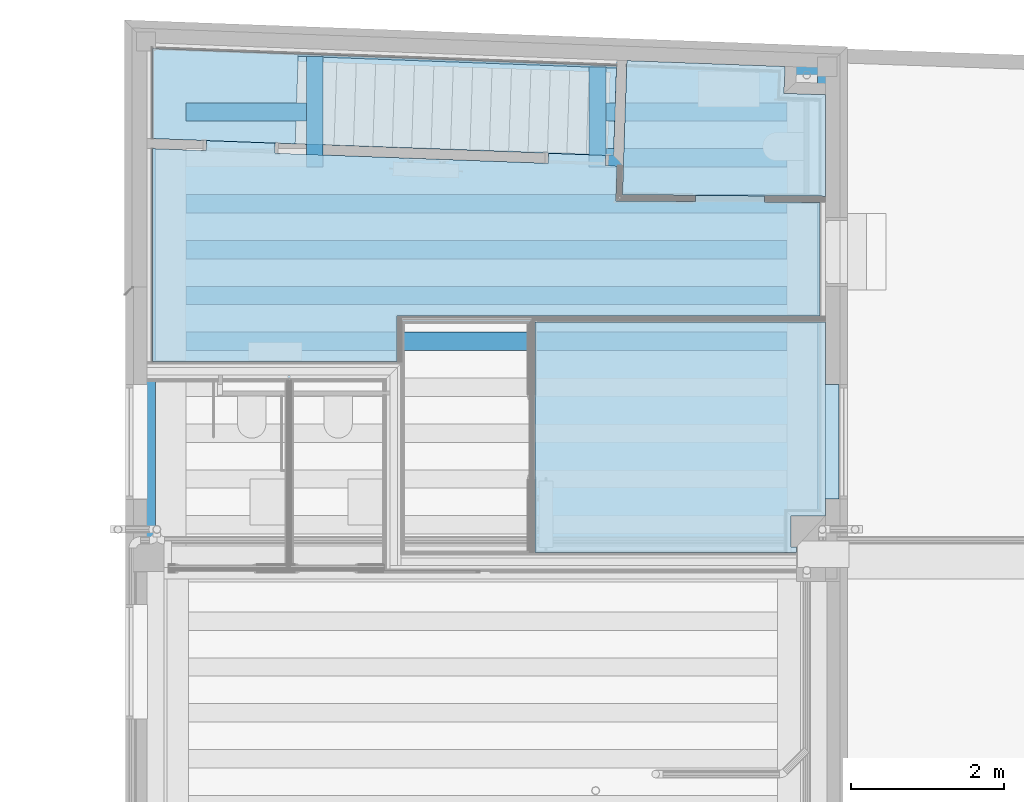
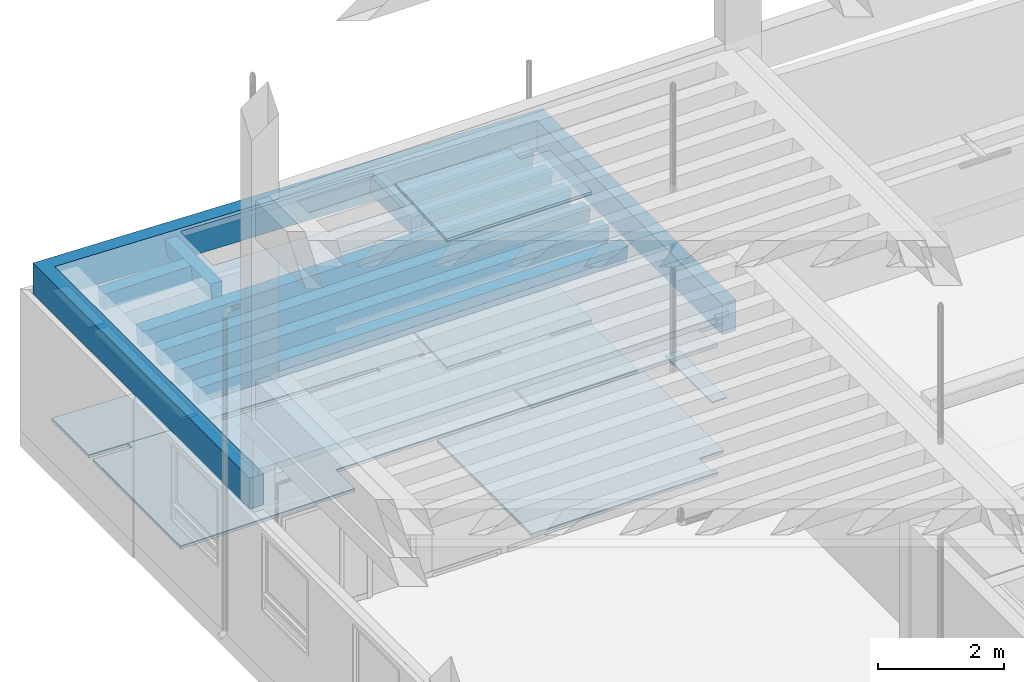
# One storey, part 20 of 108: 27 slabs.
"""IFC2X3 building model written with IfcOpenShell, lengths in metres."""

from ifc_helpers import new_model, entity, si_unit, converted_unit, derived_unit, money_unit, direction, frame, origin_with_axes, place, context, subcontext, project, spatial, faceted_brep, material, type_object, element, save


model = new_model("IFC2X3")

# Units and contexts
model_context = context("Model", 3, precision=1e-05, world=origin_with_axes(), true_north=direction((0.0, 1.0)))
body_context = subcontext(model_context, "Body", "Model", "MODEL_VIEW", scale=1.0)
ifc_project = project(units=[si_unit("LENGTHUNIT", "METRE"), si_unit("AREAUNIT", "SQUARE_METRE"), si_unit("VOLUMEUNIT", "CUBIC_METRE"), si_unit("ABSORBEDDOSEUNIT", "GRAY"), si_unit("AMOUNTOFSUBSTANCEUNIT", "MOLE"), si_unit("DOSEEQUIVALENTUNIT", "SIEVERT"), si_unit("ELECTRICCAPACITANCEUNIT", "FARAD"), si_unit("ELECTRICCHARGEUNIT", "COULOMB"), si_unit("ELECTRICCONDUCTANCEUNIT", "SIEMENS"), si_unit("ELECTRICCURRENTUNIT", "AMPERE"), si_unit("ELECTRICRESISTANCEUNIT", "OHM"), si_unit("ELECTRICVOLTAGEUNIT", "VOLT"), si_unit("ENERGYUNIT", "JOULE"), si_unit("FORCEUNIT", "NEWTON"), si_unit("FREQUENCYUNIT", "HERTZ"), si_unit("ILLUMINANCEUNIT", "LUX"), si_unit("INDUCTANCEUNIT", "HENRY"), si_unit("LUMINOUSFLUXUNIT", "LUMEN"), si_unit("LUMINOUSINTENSITYUNIT", "CANDELA"), si_unit("MAGNETICFLUXDENSITYUNIT", "TESLA"), si_unit("MAGNETICFLUXUNIT", "WEBER"), si_unit("MASSUNIT", "GRAM"), converted_unit("PLANEANGLEUNIT", "degree", entity("IfcReal", 0.0174532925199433), si_unit("PLANEANGLEUNIT", "RADIAN"), dimensions=[0, 0, 0, 0, 0, 0, 0]), si_unit("POWERUNIT", "WATT"), si_unit("PRESSUREUNIT", "PASCAL"), si_unit("RADIOACTIVITYUNIT", "BECQUEREL"), si_unit("SOLIDANGLEUNIT", "STERADIAN"), si_unit("THERMODYNAMICTEMPERATUREUNIT", "KELVIN"), si_unit("TIMEUNIT", "SECOND"), derived_unit("ACCELERATIONUNIT", [(si_unit("LENGTHUNIT", "METRE"), 1), (si_unit("TIMEUNIT", "SECOND"), -2)]), derived_unit("ANGULARVELOCITYUNIT", [(converted_unit("PLANEANGLEUNIT", "degree", entity("IfcReal", 0.0174532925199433), si_unit("PLANEANGLEUNIT", "RADIAN"), dimensions=[0, 0, 0, 0, 0, 0, 0]), 1), (si_unit("TIMEUNIT", "SECOND"), -1)]), derived_unit("CURVATUREUNIT", [(converted_unit("PLANEANGLEUNIT", "degree", entity("IfcReal", 0.0174532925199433), si_unit("PLANEANGLEUNIT", "RADIAN"), dimensions=[0, 0, 0, 0, 0, 0, 0]), 1), (si_unit("LENGTHUNIT", "METRE"), -1)]), derived_unit("DYNAMICVISCOSITYUNIT", [(si_unit("PRESSUREUNIT", "PASCAL"), 1), (si_unit("TIMEUNIT", "SECOND"), 1)]), derived_unit("HEATFLUXDENSITYUNIT", [(si_unit("POWERUNIT", "WATT"), 1), (si_unit("LENGTHUNIT", "METRE"), -2)]), derived_unit("HEATINGVALUEUNIT", [(si_unit("ENERGYUNIT", "JOULE"), 1), (si_unit("MASSUNIT", "GRAM"), -1)]), derived_unit("INTEGERCOUNTRATEUNIT", [(si_unit("TIMEUNIT", "SECOND"), -1)]), derived_unit("IONCONCENTRATIONUNIT", [(si_unit("MASSUNIT", "GRAM"), 1), (si_unit("VOLUMEUNIT", "CUBIC_METRE"), -1)]), derived_unit("ISOTHERMALMOISTURECAPACITYUNIT", [(si_unit("VOLUMEUNIT", "CUBIC_METRE"), 1), (si_unit("MASSUNIT", "GRAM"), -1)]), derived_unit("KINEMATICVISCOSITYUNIT", [(si_unit("AREAUNIT", "SQUARE_METRE"), 1), (si_unit("TIMEUNIT", "SECOND"), -1)]), derived_unit("LINEARFORCEUNIT", [(si_unit("FORCEUNIT", "NEWTON"), 1), (si_unit("LENGTHUNIT", "METRE"), -1)]), derived_unit("LINEARMOMENTUNIT", [(si_unit("FORCEUNIT", "NEWTON"), 1), (si_unit("LENGTHUNIT", "METRE"), -1)]), derived_unit("LINEARSTIFFNESSUNIT", [(si_unit("FORCEUNIT", "NEWTON"), 1), (si_unit("LENGTHUNIT", "METRE"), -1)]), derived_unit("LINEARVELOCITYUNIT", [(si_unit("LENGTHUNIT", "METRE"), 1), (si_unit("TIMEUNIT", "SECOND"), -1)]), derived_unit("LUMINOUSINTENSITYDISTRIBUTIONUNIT", [(si_unit("LUMINOUSINTENSITYUNIT", "CANDELA"), 1), (si_unit("LUMINOUSFLUXUNIT", "LUMEN"), -1)]), derived_unit("MASSDENSITYUNIT", [(si_unit("MASSUNIT", "GRAM"), 1), (si_unit("VOLUMEUNIT", "CUBIC_METRE"), -1)]), derived_unit("MASSFLOWRATEUNIT", [(si_unit("MASSUNIT", "GRAM"), 1), (si_unit("TIMEUNIT", "SECOND"), -1)]), derived_unit("MASSPERLENGTHUNIT", [(si_unit("MASSUNIT", "GRAM"), 1), (si_unit("LENGTHUNIT", "METRE"), -1)]), derived_unit("MODULUSOFELASTICITYUNIT", [(si_unit("FORCEUNIT", "NEWTON"), 1), (si_unit("AREAUNIT", "SQUARE_METRE"), -1)]), derived_unit("MODULUSOFLINEARSUBGRADEREACTIONUNIT", [(si_unit("FORCEUNIT", "NEWTON"), 1), (si_unit("LENGTHUNIT", "METRE"), -2)]), derived_unit("MODULUSOFROTATIONALSUBGRADEREACTIONUNIT", [(si_unit("FORCEUNIT", "NEWTON"), 1), (si_unit("LENGTHUNIT", "METRE"), 1)]), derived_unit("MODULUSOFSUBGRADEREACTIONUNIT", [(si_unit("FORCEUNIT", "NEWTON"), 1), (si_unit("VOLUMEUNIT", "CUBIC_METRE"), -1)]), derived_unit("MOISTUREDIFFUSIVITYUNIT", [(si_unit("VOLUMEUNIT", "CUBIC_METRE"), 1), (si_unit("TIMEUNIT", "SECOND"), -1)]), derived_unit("MOLECULARWEIGHTUNIT", [(si_unit("MASSUNIT", "GRAM"), 1), (si_unit("AMOUNTOFSUBSTANCEUNIT", "MOLE"), -1)]), derived_unit("PLANARFORCEUNIT", [(si_unit("FORCEUNIT", "NEWTON"), 1), (si_unit("LENGTHUNIT", "METRE"), -2)]), derived_unit("ROTATIONALFREQUENCYUNIT", [(si_unit("TIMEUNIT", "SECOND"), -1)]), derived_unit("ROTATIONALMASSUNIT", [(si_unit("MASSUNIT", "GRAM"), 1), (si_unit("LENGTHUNIT", "METRE"), 2)]), derived_unit("ROTATIONALSTIFFNESSUNIT", [(si_unit("FORCEUNIT", "NEWTON"), 1), (si_unit("LENGTHUNIT", "METRE"), 1), (converted_unit("PLANEANGLEUNIT", "degree", entity("IfcReal", 0.0174532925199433), si_unit("PLANEANGLEUNIT", "RADIAN"), dimensions=[0, 0, 0, 0, 0, 0, 0]), -1)]), derived_unit("SECTIONAREAINTEGRALUNIT", [(si_unit("LENGTHUNIT", "METRE"), 5)]), derived_unit("SECTIONMODULUSUNIT", [(si_unit("LENGTHUNIT", "METRE"), 3)]), derived_unit("SHEARMODULUSUNIT", [(si_unit("FORCEUNIT", "NEWTON"), 1), (si_unit("AREAUNIT", "SQUARE_METRE"), -1)]), derived_unit("SOUNDPOWERUNIT", [(si_unit("ENERGYUNIT", "JOULE"), 1), (si_unit("TIMEUNIT", "SECOND"), -1)]), derived_unit("SPECIFICHEATCAPACITYUNIT", [(si_unit("FORCEUNIT", "NEWTON"), 1), (si_unit("MASSUNIT", "GRAM"), -1), (si_unit("THERMODYNAMICTEMPERATUREUNIT", "KELVIN"), -1)]), derived_unit("TEMPERATUREGRADIENTUNIT", [(si_unit("THERMODYNAMICTEMPERATUREUNIT", "KELVIN"), 1), (si_unit("LENGTHUNIT", "METRE"), -1)]), derived_unit("THERMALADMITTANCEUNIT", [(si_unit("POWERUNIT", "WATT"), 1), (si_unit("AREAUNIT", "SQUARE_METRE"), -1), (si_unit("THERMODYNAMICTEMPERATUREUNIT", "KELVIN"), -1)]), derived_unit("THERMALCONDUCTANCEUNIT", [(si_unit("POWERUNIT", "WATT"), 1), (si_unit("LENGTHUNIT", "METRE"), -1), (si_unit("THERMODYNAMICTEMPERATUREUNIT", "KELVIN"), -1)]), derived_unit("THERMALEXPANSIONCOEFFICIENTUNIT", [(si_unit("THERMODYNAMICTEMPERATUREUNIT", "KELVIN"), -1)]), derived_unit("THERMALRESISTANCEUNIT", [(si_unit("AREAUNIT", "SQUARE_METRE"), 1), (si_unit("POWERUNIT", "WATT"), -1)]), derived_unit("THERMALTRANSMITTANCEUNIT", [(si_unit("POWERUNIT", "WATT"), 1), (si_unit("AREAUNIT", "SQUARE_METRE"), -1), (si_unit("THERMODYNAMICTEMPERATUREUNIT", "KELVIN"), -1)]), derived_unit("TORQUEUNIT", [(si_unit("FORCEUNIT", "NEWTON"), 1), (si_unit("LENGTHUNIT", "METRE"), 1)]), derived_unit("VAPORPERMEABILITYUNIT", [(si_unit("MASSUNIT", "GRAM"), 1), (si_unit("TIMEUNIT", "SECOND"), -1)]), derived_unit("VOLUMETRICFLOWRATEUNIT", [(si_unit("VOLUMEUNIT", "CUBIC_METRE"), 1), (si_unit("TIMEUNIT", "SECOND"), -1)]), derived_unit("WARPINGCONSTANTUNIT", [(si_unit("LENGTHUNIT", "METRE"), 6)]), derived_unit("WARPINGMOMENTUNIT", [(si_unit("FORCEUNIT", "NEWTON"), 1), (si_unit("LENGTHUNIT", "METRE"), 2)]), money_unit("GBP")], contexts=[model_context])

# Site, building, storey
site_placement = place(None, origin_with_axes())
site = spatial("IfcSite", under=ifc_project, at=site_placement, Name="Site", CompositionType="ELEMENT")
building_placement = place(site_placement, origin_with_axes())
building = spatial("IfcBuilding", under=site, at=building_placement, Name="Building01", CompositionType="ELEMENT")
storey_placement = place(building_placement, origin_with_axes())
storey = spatial("IfcBuildingStorey", under=building, at=storey_placement, Name="GF", CompositionType="ELEMENT", Elevation=0.0)

# Slabs
ifc_material_1 = material(Name="A_BSUK_Ceramic_FloorTiles")
slab_type_1 = type_object("IfcSlabType", Name="A-FloorsSlabs A_BSUK_Slabs", PredefinedType="FLOOR")
placement = place(storey_placement, origin_with_axes())
element("IfcSlab", 1, at=placement, inside=storey, type_object=slab_type_1, material=ifc_material_1, Name="A-FloorsSlabs A_BSUK_Slabs", ObjectType="CompoundSlabLeaf", context=body_context, shape_type="Brep", body=[
    faceted_brep([(6.556698, 21.082305, 0.178), (6.556698, 21.082305, 0.19), (8.628099, 21.00546, 0.19), (8.628099, 21.00546, 0.178), (6.497539, 19.325402, 0.178), (6.497539, 19.325402, 0.19), (9.154265, 19.307574, 0.178), (9.154265, 19.307574, 0.19), (9.154265, 20.635466, 0.178), (9.154265, 20.635466, 0.19), (8.611883, 20.65458, 0.178), (8.611883, 20.65458, 0.19)], [[[0, 1, 2, 3]], [[4, 5, 1, 0]], [[6, 7, 5, 4]], [[8, 9, 7, 6]], [[10, 11, 9, 8]], [[3, 2, 11, 10]], [[1, 5, 7, 9, 11, 2]], [[3, 10, 8, 6, 4, 0]]]),
])
ifc_material_2 = material(Name="A_BSUK_Carpet-Pile")
element("IfcSlab", 2, at=placement, inside=storey, type_object=slab_type_1, material=ifc_material_2, Name="A-FloorsSlabs A_BSUK_Slabs", ObjectType="CompoundSlabLeaf", context=body_context, shape_type="Brep", body=[
    faceted_brep([(5.354256, 14.65, 0.178), (5.354256, 14.65, 0.19), (5.354256, 17.663571, 0.19), (5.354256, 17.663571, 0.178), (8.775265, 14.65, 0.178), (8.775265, 14.65, 0.19), (8.775265, 14.721892, 0.178), (8.775265, 14.721892, 0.19), (8.705291, 14.721892, 0.178), (8.705291, 14.721892, 0.19), (8.705291, 15.127892, 0.178), (8.705291, 15.127892, 0.19), (9.154265, 15.127892, 0.178), (9.154265, 15.127892, 0.19), (9.154265, 17.663571, 0.178), (9.154265, 17.663571, 0.19)], [[[0, 1, 2, 3]], [[4, 5, 1, 0]], [[6, 7, 5, 4]], [[8, 9, 7, 6]], [[10, 11, 9, 8]], [[12, 13, 11, 10]], [[14, 15, 13, 12]], [[3, 2, 15, 14]], [[1, 5, 7, 9, 11, 13, 15, 2]], [[3, 14, 12, 10, 8, 6, 4, 0]]]),
])
ifc_material_3 = material(Name="A_BSUK_CeilingSoffitFinishes_Suspended")
element("IfcSlab", 3, at=placement, inside=storey, type_object=slab_type_1, material=ifc_material_3, Name="A-FloorsSlabs A_BSUK_Slabs", ObjectType="CompoundSlabLeaf", context=body_context, shape_type="Brep", body=[
    faceted_brep([(0.352897, 20.061719, 2.648), (0.352897, 20.061719, 2.663), (0.352897, 21.240404, 2.663), (0.352897, 21.240404, 2.648), (2.218549, 19.992487, 2.648), (2.218549, 19.992487, 2.663), (2.255765, 21.074618, 2.648), (2.255765, 21.074618, 2.663), (2.259035, 21.169698, 2.648), (2.259035, 21.169698, 2.663)], [[[0, 1, 2, 3]], [[4, 5, 1, 0]], [[6, 7, 5, 4]], [[8, 9, 7, 6]], [[3, 2, 9, 8]], [[1, 5, 7, 9, 2]], [[3, 8, 6, 4, 0]]]),
])
ifc_material_4 = material(Name="A_BSUK_Timber_Miscellaneous")
element("IfcSlab", 4, at=placement, inside=storey, type_object=slab_type_1, material=ifc_material_4, Name="A-FloorsSlabs A_BSUK_Slabs", ObjectType="CompoundSlabLeaf", context=body_context, shape_type="Brep", body=[
    faceted_brep([(9.067265, 16.844813, 0.998), (9.067265, 16.844813, 1.023), (9.334256, 16.844813, 1.023), (9.334256, 16.844813, 0.998), (9.067265, 15.344813, 0.998), (9.067265, 15.344813, 1.023), (9.334256, 15.344813, 0.998), (9.334256, 15.344813, 1.023)], [[[0, 1, 2, 3]], [[4, 5, 1, 0]], [[6, 7, 5, 4]], [[3, 2, 7, 6]], [[1, 5, 7, 2]], [[3, 6, 4, 0]]]),
])
ifc_material_5 = material(Name="A_BSUK_Parquet_Floor")
element("IfcSlab", 5, at=placement, inside=storey, type_object=slab_type_1, material=ifc_material_5, Name="A-FloorsSlabs A_BSUK_Slabs", ObjectType="CompoundSlabLeaf", context=body_context, shape_type="Brep", body=[
    faceted_brep([(0.352897, 21.240404, 0.178), (0.352897, 21.240404, 0.19), (6.422857, 21.015221, 0.19), (6.422857, 21.015221, 0.178), (0.352897, 20.061719, 0.178), (0.352897, 20.061719, 0.19), (6.383485, 19.838621, 0.178), (6.383485, 19.838621, 0.19)], [[[0, 1, 2, 3]], [[4, 5, 1, 0]], [[6, 7, 5, 4]], [[3, 2, 7, 6]], [[1, 5, 7, 2]], [[3, 6, 4, 0]]]),
])
element("IfcSlab", 6, at=placement, inside=storey, type_object=slab_type_1, material=ifc_material_5, Name="A-FloorsSlabs A_BSUK_Slabs", ObjectType="CompoundSlabLeaf", context=body_context, shape_type="Brep", body=[
    faceted_brep([(0.35286, 19.930631, 0.178), (0.35286, 19.930631, 0.19), (1.053595, 19.904707, 0.19), (1.053595, 19.904707, 0.178), (0.35286, 17.143647, 0.178), (0.35286, 17.143647, 0.19), (3.550525, 17.143647, 0.178), (3.550525, 17.143647, 0.19), (3.550525, 17.743571, 0.178), (3.550525, 17.743571, 0.19), (9.082265, 17.743571, 0.178), (9.082265, 17.743571, 0.19), (9.082265, 19.227572, 0.178), (9.082265, 19.227572, 0.19), (8.356522, 19.232925, 0.178), (8.356522, 19.232925, 0.19), (8.357258, 19.312922, 0.178), (8.357258, 19.312922, 0.19), (7.457276, 19.318961, 0.178), (7.457276, 19.318961, 0.19), (7.456561, 19.241312, 0.178), (7.456561, 19.241312, 0.19), (6.414819, 19.245955, 0.178), (6.414819, 19.245955, 0.19), (6.430303, 19.7058, 0.178), (6.430303, 19.7058, 0.19), (6.275395, 19.71153, 0.178), (6.275395, 19.71153, 0.19), (6.280238, 19.842441, 0.178), (6.280238, 19.842441, 0.19), (5.530751, 19.870167, 0.178), (5.530751, 19.870167, 0.19), (5.525908, 19.739257, 0.178), (5.525908, 19.739257, 0.19), (1.952979, 19.871435, 0.178), (1.952979, 19.871435, 0.19), (1.957822, 20.002346, 0.178), (1.957822, 20.002346, 0.19), (1.058438, 20.035618, 0.178), (1.058438, 20.035618, 0.19)], [[[0, 1, 2, 3]], [[4, 5, 1, 0]], [[6, 7, 5, 4]], [[8, 9, 7, 6]], [[10, 11, 9, 8]], [[12, 13, 11, 10]], [[14, 15, 13, 12]], [[16, 17, 15, 14]], [[18, 19, 17, 16]], [[20, 21, 19, 18]], [[22, 23, 21, 20]], [[24, 25, 23, 22]], [[26, 27, 25, 24]], [[28, 29, 27, 26]], [[30, 31, 29, 28]], [[32, 33, 31, 30]], [[34, 35, 33, 32]], [[36, 37, 35, 34]], [[38, 39, 37, 36]], [[3, 2, 39, 38]], [[1, 5, 7, 9, 11, 13, 15, 17, 19, 21, 23, 25, 27, 29, 31, 33, 35, 37, 39, 2]], [[3, 38, 36, 34, 32, 30, 28, 26, 24, 22, 20, 18, 16, 14, 12, 10, 8, 6, 4, 0]]]),
])
element("IfcSlab", 7, at=placement, inside=storey, type_object=slab_type_1, material=ifc_material_3, Name="A-FloorsSlabs A_BSUK_Slabs", ObjectType="CompoundSlabLeaf", context=body_context, shape_type="Brep", body=[
    faceted_brep([(6.556698, 21.082305, 2.6125), (6.556698, 21.082305, 2.625), (8.628099, 21.00546, 2.625), (8.628099, 21.00546, 2.6125), (6.497539, 19.325402, 2.6125), (6.497539, 19.325402, 2.625), (9.154265, 19.307574, 2.6125), (9.154265, 19.307574, 2.625), (9.154265, 20.635466, 2.6125), (9.154265, 20.635466, 2.625), (8.611883, 20.65458, 2.6125), (8.611883, 20.65458, 2.625)], [[[0, 1, 2, 3]], [[4, 5, 1, 0]], [[6, 7, 5, 4]], [[8, 9, 7, 6]], [[10, 11, 9, 8]], [[3, 2, 11, 10]], [[1, 5, 7, 9, 11, 2]], [[3, 10, 8, 6, 4, 0]]]),
])
element("IfcSlab", 8, at=placement, inside=storey, type_object=slab_type_1, material=ifc_material_3, Name="A-FloorsSlabs A_BSUK_Slabs", ObjectType="CompoundSlabLeaf", context=body_context, shape_type="Brep", body=[
    faceted_brep([(5.354256, 14.65, 2.6125), (5.354256, 14.65, 2.625), (5.354256, 17.663571, 2.625), (5.354256, 17.663571, 2.6125), (8.775265, 14.65, 2.6125), (8.775265, 14.65, 2.625), (8.775265, 14.721892, 2.6125), (8.775265, 14.721892, 2.625), (8.705291, 14.721892, 2.6125), (8.705291, 14.721892, 2.625), (8.705291, 15.127892, 2.6125), (8.705291, 15.127892, 2.625), (9.154265, 15.127892, 2.6125), (9.154265, 15.127892, 2.625), (9.154265, 17.663571, 2.6125), (9.154265, 17.663571, 2.625)], [[[0, 1, 2, 3]], [[4, 5, 1, 0]], [[6, 7, 5, 4]], [[8, 9, 7, 6]], [[10, 11, 9, 8]], [[12, 13, 11, 10]], [[14, 15, 13, 12]], [[3, 2, 15, 14]], [[1, 5, 7, 9, 11, 13, 15, 2]], [[3, 14, 12, 10, 8, 6, 4, 0]]]),
])
element("IfcSlab", 9, at=placement, inside=storey, type_object=slab_type_1, material=ifc_material_3, Name="A-FloorsSlabs A_BSUK_Slabs", ObjectType="CompoundSlabLeaf", context=body_context, shape_type="Brep", body=[
    faceted_brep([(0.35286, 19.930631, 2.6125), (0.35286, 19.930631, 2.625), (1.053595, 19.904707, 2.625), (1.053595, 19.904707, 2.6125), (0.35286, 17.143647, 2.6125), (0.35286, 17.143647, 2.625), (3.550525, 17.143647, 2.6125), (3.550525, 17.143647, 2.625), (3.550525, 17.743571, 2.6125), (3.550525, 17.743571, 2.625), (9.082265, 17.743571, 2.6125), (9.082265, 17.743571, 2.625), (9.082265, 19.227572, 2.6125), (9.082265, 19.227572, 2.625), (8.356522, 19.232925, 2.6125), (8.356522, 19.232925, 2.625), (8.357258, 19.312922, 2.6125), (8.357258, 19.312922, 2.625), (7.457276, 19.318961, 2.6125), (7.457276, 19.318961, 2.625), (7.456561, 19.241312, 2.6125), (7.456561, 19.241312, 2.625), (6.414819, 19.245955, 2.6125), (6.414819, 19.245955, 2.625), (6.430303, 19.7058, 2.6125), (6.430303, 19.7058, 2.625), (6.275395, 19.71153, 2.6125), (6.275395, 19.71153, 2.625), (6.280238, 19.842441, 2.6125), (6.280238, 19.842441, 2.625), (5.530751, 19.870167, 2.6125), (5.530751, 19.870167, 2.625), (5.525908, 19.739257, 2.6125), (5.525908, 19.739257, 2.625), (1.952979, 19.871435, 2.6125), (1.952979, 19.871435, 2.625), (1.957822, 20.002346, 2.6125), (1.957822, 20.002346, 2.625), (1.058438, 20.035618, 2.6125), (1.058438, 20.035618, 2.625)], [[[0, 1, 2, 3]], [[4, 5, 1, 0]], [[6, 7, 5, 4]], [[8, 9, 7, 6]], [[10, 11, 9, 8]], [[12, 13, 11, 10]], [[14, 15, 13, 12]], [[16, 17, 15, 14]], [[18, 19, 17, 16]], [[20, 21, 19, 18]], [[22, 23, 21, 20]], [[24, 25, 23, 22]], [[26, 27, 25, 24]], [[28, 29, 27, 26]], [[30, 31, 29, 28]], [[32, 33, 31, 30]], [[34, 35, 33, 32]], [[36, 37, 35, 34]], [[38, 39, 37, 36]], [[3, 2, 39, 38]], [[1, 5, 7, 9, 11, 13, 15, 17, 19, 21, 23, 25, 27, 29, 31, 33, 35, 37, 39, 2]], [[3, 38, 36, 34, 32, 30, 28, 26, 24, 22, 20, 18, 16, 14, 12, 10, 8, 6, 4, 0]]]),
])
ifc_material_6 = material(Name="A_BSUK_Slabs")
for number, where, z_axis, x_axis, name in (
    (10, (0.845327, 17.890006, 3.015), (0.0, 0.0, 1.0), (1.0, 0.0, 0.0), "A-FloorsSlabs A_BSUK_Slabs"),
    (11, (0.845327, 18.490006, 3.015), (0.0, 0.0, 1.0), (1.0, 0.0, 0.0), "A-FloorsSlabs A_BSUK_Slabs"),
    (12, (0.845327, 19.090006, 3.015), (0.0, 0.0, 1.0), (1.0, 0.0, 0.0), "A-FloorsSlabs A_BSUK_Slabs"),
):
    element("IfcSlab", number, at=place(storey_placement, frame(where, z_axis=z_axis, x_axis=x_axis)), inside=storey, type_object=slab_type_1, material=ifc_material_6, Name=name, ObjectType="A-FloorsSlabs A_BSUK_Slabs", context=body_context, shape_type="Brep", body=[
        faceted_brep([(-0.054648, 0.048571, -0.34), (7.807711, 0.048571, -0.34), (7.807711, 0.0, 0.0), (-0.054648, 0.0, 0.0), (-0.054648, 0.191429, -0.34), (7.807711, 0.191429, -0.34), (-0.054648, 0.24, 0.0), (7.807711, 0.24, 0.0)], [[[0, 1, 2, 3]], [[4, 5, 1, 0]], [[6, 7, 5, 4]], [[3, 2, 7, 6]], [[1, 5, 7, 2]], [[3, 6, 4, 0]]]),
    ])
slab_10_placement = place(storey_placement, frame((1.217261, 19.690006, 3.015), z_axis=(0.0, 0.0, 1.0), x_axis=(1.0, 0.0, 0.0)))
element("IfcSlab", 13, at=slab_10_placement, inside=storey, type_object=slab_type_1, material=ifc_material_6, Name="A-FloorsSlabs A_BSUK_Slabs", ObjectType="A-FloorsSlabs A_BSUK_Slabs", context=body_context, shape_type="Brep", body=[
    faceted_brep([(5.016598, 0.048571, -0.34), (7.435777, 0.048571, -0.34), (7.435777, 0.0, 0.0), (5.016598, 0.0, 0.0), (5.016598, 0.191429, -0.34), (7.435777, 0.191429, -0.34), (5.016598, 0.24, 0.0), (7.435777, 0.24, 0.0)], [[[0, 1, 2, 3]], [[4, 5, 1, 0]], [[6, 7, 5, 4]], [[3, 2, 7, 6]], [[1, 5, 7, 2]], [[3, 6, 4, 0]]]),
])
slab_11_placement = place(storey_placement, frame((2.584185, 12.413978, 3.015), z_axis=(0.0, 0.0, 1.0), x_axis=(0.0, 1.0, 0.0)))
element("IfcSlab", 14, at=slab_11_placement, inside=storey, type_object=slab_type_1, material=ifc_material_6, Name="A-FloorsSlabs A_BSUK_Slabs", ObjectType="A-FloorsSlabs A_BSUK_Slabs", context=body_context, shape_type="Brep", body=[
    faceted_brep([(7.276028, 0.0, -0.34), (8.721302, 0.0, -0.34), (8.721302, 0.0, 0.0), (7.276028, 0.0, 0.0), (7.276028, 0.171429, -0.34), (8.721302, 0.171429, -0.34), (7.276028, 0.22, 0.0), (8.721302, 0.22, 0.0)], [[[0, 1, 2, 3]], [[4, 5, 1, 0]], [[6, 7, 5, 4]], [[3, 2, 7, 6]], [[1, 5, 7, 2]], [[3, 6, 4, 0]]]),
])
slab_12_placement = place(storey_placement, frame((6.06243, 12.413978, 3.015), z_axis=(0.0, 0.0, 1.0), x_axis=(0.0, -1.0, 0.0)))
element("IfcSlab", 15, at=slab_12_placement, inside=storey, type_object=slab_type_1, material=ifc_material_6, Name="A-FloorsSlabs A_BSUK_Slabs", ObjectType="A-FloorsSlabs A_BSUK_Slabs", context=body_context, shape_type="Brep", body=[
    faceted_brep([(-7.276028, 0.0, 0.0), (-8.582546, 0.0, 0.0), (-8.582546, 0.0, -0.34), (-7.276028, 0.0, -0.34), (-8.582546, 0.171429, -0.34), (-7.276028, 0.171429, -0.34), (-8.582546, 0.22, 0.0), (-7.276028, 0.22, 0.0)], [[[0, 1, 2, 3]], [[3, 2, 4, 5]], [[5, 4, 6, 7]], [[7, 6, 1, 0]], [[1, 6, 4, 2]], [[3, 5, 7, 0]]]),
])
slab_13_placement = place(storey_placement, frame((0.845327, 17.290006, 3.015), z_axis=(0.0, 0.0, 1.0), x_axis=(1.0, 0.0, 0.0)))
element("IfcSlab", 16, at=slab_13_placement, inside=storey, type_object=slab_type_1, material=ifc_material_6, Name="A-FloorsSlabs A_BSUK_Slabs", ObjectType="A-FloorsSlabs A_BSUK_Slabs", context=body_context, shape_type="Brep", body=[
    faceted_brep([(-0.054648, 0.048571, -0.34), (7.807711, 0.048571, -0.34), (7.807711, 0.0, 0.0), (-0.054648, 0.0, 0.0), (-0.054648, 0.191429, -0.34), (7.807711, 0.191429, -0.34), (-0.054648, 0.24, 0.0), (7.807711, 0.24, 0.0)], [[[0, 1, 2, 3]], [[4, 5, 1, 0]], [[6, 7, 5, 4]], [[3, 2, 7, 6]], [[1, 5, 7, 2]], [[3, 6, 4, 0]]]),
])
slab_14_placement = place(storey_placement, frame((-4.445914, 20.290006, 3.015), z_axis=(0.0, 0.0, 1.0), x_axis=(1.0, 0.0, 0.0)))
element("IfcSlab", 17, at=slab_14_placement, inside=storey, type_object=slab_type_1, material=ifc_material_6, Name="A-FloorsSlabs A_BSUK_Slabs", ObjectType="A-FloorsSlabs A_BSUK_Slabs", context=body_context, shape_type="Brep", body=[
    faceted_brep([(5.236593, 0.048571, -0.34), (6.85867, 0.048571, -0.34), (6.85867, 0.0, 0.0), (5.236593, 0.0, 0.0), (5.236593, 0.191429, -0.34), (6.85867, 0.191429, -0.34), (5.236593, 0.24, 0.0), (6.85867, 0.24, 0.0)], [[[0, 1, 2, 3]], [[4, 5, 1, 0]], [[6, 7, 5, 4]], [[3, 2, 7, 6]], [[1, 5, 7, 2]], [[3, 6, 4, 0]]]),
])
slab_15_placement = place(storey_placement, frame((1.217261, 20.290006, 3.015), z_axis=(0.0, 0.0, 1.0), x_axis=(1.0, 0.0, 0.0)))
element("IfcSlab", 18, at=slab_15_placement, inside=storey, type_object=slab_type_1, material=ifc_material_6, Name="A-FloorsSlabs A_BSUK_Slabs", ObjectType="A-FloorsSlabs A_BSUK_Slabs", context=body_context, shape_type="Brep", body=[
    faceted_brep([(5.016598, 0.048571, -0.34), (7.435777, 0.048571, -0.34), (7.435777, 0.0, 0.0), (5.016598, 0.0, 0.0), (5.016598, 0.191429, -0.34), (7.435777, 0.191429, -0.34), (5.016598, 0.24, 0.0), (7.435777, 0.24, 0.0)], [[[0, 1, 2, 3]], [[4, 5, 1, 0]], [[6, 7, 5, 4]], [[3, 2, 7, 6]], [[1, 5, 7, 2]], [[3, 6, 4, 0]]]),
])
element("IfcSlab", 19, at=placement, inside=storey, type_object=slab_type_1, material=ifc_material_6, Name="A-FloorsSlabs A_BSUK_Slabs", ObjectType="CompoundSlabLeaf", context=body_context, shape_type="Brep", body=[
    faceted_brep([(8.79, 14.73, 3.135), (8.79, 14.800435, 3.135), (9.053038, 14.8, 3.135), (9.053038, 20.886536, 3.135), (0.390679, 21.207883, 3.135), (0.390679, 14.73, 3.135), (0.6, 14.73, 3.135), (0.6, 14.73001, 3.135), (2.584185, 19.979174, 3.135), (2.600888, 21.053624, 3.135), (6.062512, 20.925208, 3.135), (6.06243, 19.859391, 3.135), (0.6, 14.73001, 3.015), (0.6, 14.73, 3.015), (0.390679, 14.73, 3.015), (0.390679, 21.207883, 3.015), (9.053038, 20.886536, 3.015), (9.053038, 14.8, 3.015), (8.79, 14.800435, 3.015), (8.79, 14.73, 3.015), (2.584185, 19.979174, 3.015), (6.06243, 19.859391, 3.015), (6.062512, 20.925208, 3.015), (2.600888, 21.053624, 3.015)], [[[0, 1, 2, 3, 4, 5, 6, 7], [8, 9, 10, 11]], [[12, 13, 14, 15, 16, 17, 18, 19], [20, 21, 22, 23]], [[19, 0, 7, 12]], [[18, 1, 0, 19]], [[17, 2, 1, 18]], [[16, 3, 2, 17]], [[15, 4, 3, 16]], [[14, 5, 4, 15]], [[13, 6, 5, 14]], [[12, 7, 6, 13]], [[20, 23, 9, 8]], [[21, 20, 8, 11]], [[22, 21, 11, 10]], [[23, 22, 10, 9]]]),
])
element("IfcSlab", 20, at=placement, inside=storey, type_object=slab_type_1, material=ifc_material_6, Name="A-FloorsSlabs A_BSUK_Slabs", ObjectType="CompoundSlabLeaf", context=body_context, shape_type="Brep", body=[
    faceted_brep([(0.390679, 14.580006, 2.535), (0.390679, 14.580006, 3.135), (0.140679, 14.580006, 3.135), (0.140679, 14.580006, 2.535), (0.390679, 21.207883, 2.535), (0.390679, 21.207883, 3.135), (9.053038, 20.886536, 2.535), (9.053038, 20.886536, 3.135), (9.053038, 14.999999, 2.535), (9.053038, 14.999999, 3.135), (9.303038, 14.999999, 2.535), (9.303038, 14.999999, 3.135), (9.303038, 21.127455, 2.535), (9.303038, 21.127455, 3.135), (0.140679, 21.46733, 2.535), (0.140679, 21.46733, 3.135)], [[[0, 1, 2, 3]], [[4, 5, 1, 0]], [[6, 7, 5, 4]], [[8, 9, 7, 6]], [[10, 11, 9, 8]], [[12, 13, 11, 10]], [[14, 15, 13, 12]], [[3, 2, 15, 14]], [[1, 5, 7, 9, 11, 13, 15, 2]], [[3, 14, 12, 10, 8, 6, 4, 0]]]),
])
ifc_material_7 = material(Name="A_BSUK_ExpandedPolystyreneBoards")
slab_type_2 = type_object("IfcSlabType", Name="A-FloorsSlabs A_BSUK_ExpandedPolystyreneBoards", PredefinedType="FLOOR")
element("IfcSlab", 21, at=placement, inside=storey, type_object=slab_type_2, material=ifc_material_7, Name="A-FloorsSlabs A_BSUK_ExpandedPolystyreneBoards", ObjectType="CompoundSlabLeaf", context=body_context, shape_type="Brep", body=[
    faceted_brep([(6.556698, 21.082305, 0.128), (6.556698, 21.082305, 0.178), (8.628099, 21.00546, 0.178), (8.628099, 21.00546, 0.128), (6.497539, 19.325402, 0.128), (6.497539, 19.325402, 0.178), (9.154265, 19.307574, 0.128), (9.154265, 19.307574, 0.178), (9.154265, 20.635466, 0.128), (9.154265, 20.635466, 0.178), (8.611883, 20.65458, 0.128), (8.611883, 20.65458, 0.178)], [[[0, 1, 2, 3]], [[4, 5, 1, 0]], [[6, 7, 5, 4]], [[8, 9, 7, 6]], [[10, 11, 9, 8]], [[3, 2, 11, 10]], [[1, 5, 7, 9, 11, 2]], [[3, 10, 8, 6, 4, 0]]]),
])
element("IfcSlab", 22, at=placement, inside=storey, type_object=slab_type_2, material=ifc_material_7, Name="A-FloorsSlabs A_BSUK_ExpandedPolystyreneBoards", ObjectType="CompoundSlabLeaf", context=body_context, shape_type="Brep", body=[
    faceted_brep([(5.354256, 14.65, 0.128), (5.354256, 14.65, 0.178), (5.354256, 17.663571, 0.178), (5.354256, 17.663571, 0.128), (8.775265, 14.65, 0.128), (8.775265, 14.65, 0.178), (8.775265, 14.721892, 0.128), (8.775265, 14.721892, 0.178), (8.705291, 14.721892, 0.128), (8.705291, 14.721892, 0.178), (8.705291, 15.127892, 0.128), (8.705291, 15.127892, 0.178), (9.154265, 15.127892, 0.128), (9.154265, 15.127892, 0.178), (9.154265, 17.663571, 0.128), (9.154265, 17.663571, 0.178)], [[[0, 1, 2, 3]], [[4, 5, 1, 0]], [[6, 7, 5, 4]], [[8, 9, 7, 6]], [[10, 11, 9, 8]], [[12, 13, 11, 10]], [[14, 15, 13, 12]], [[3, 2, 15, 14]], [[1, 5, 7, 9, 11, 13, 15, 2]], [[3, 14, 12, 10, 8, 6, 4, 0]]]),
])
element("IfcSlab", 23, at=placement, inside=storey, type_object=slab_type_2, material=ifc_material_7, Name="A-FloorsSlabs A_BSUK_ExpandedPolystyreneBoards", ObjectType="CompoundSlabLeaf", context=body_context, shape_type="Brep", body=[
    faceted_brep([(0.352897, 21.240404, 0.128), (0.352897, 21.240404, 0.178), (6.422857, 21.015221, 0.178), (6.422857, 21.015221, 0.128), (0.352897, 20.061719, 0.128), (0.352897, 20.061719, 0.178), (6.383485, 19.838621, 0.128), (6.383485, 19.838621, 0.178)], [[[0, 1, 2, 3]], [[4, 5, 1, 0]], [[6, 7, 5, 4]], [[3, 2, 7, 6]], [[1, 5, 7, 2]], [[3, 6, 4, 0]]]),
])
element("IfcSlab", 24, at=placement, inside=storey, type_object=slab_type_2, material=ifc_material_7, Name="A-FloorsSlabs A_BSUK_ExpandedPolystyreneBoards", ObjectType="CompoundSlabLeaf", context=body_context, shape_type="Brep", body=[
    faceted_brep([(0.35286, 19.930631, 0.128), (0.35286, 19.930631, 0.178), (1.053595, 19.904707, 0.178), (1.053595, 19.904707, 0.128), (0.35286, 17.143647, 0.128), (0.35286, 17.143647, 0.178), (3.550525, 17.143647, 0.128), (3.550525, 17.143647, 0.178), (3.550525, 17.743571, 0.128), (3.550525, 17.743571, 0.178), (9.082265, 17.743571, 0.128), (9.082265, 17.743571, 0.178), (9.082265, 19.227572, 0.128), (9.082265, 19.227572, 0.178), (8.356522, 19.232925, 0.128), (8.356522, 19.232925, 0.178), (8.357258, 19.312922, 0.128), (8.357258, 19.312922, 0.178), (7.457276, 19.318961, 0.128), (7.457276, 19.318961, 0.178), (7.456561, 19.241312, 0.128), (7.456561, 19.241312, 0.178), (6.414819, 19.245955, 0.128), (6.414819, 19.245955, 0.178), (6.430303, 19.7058, 0.128), (6.430303, 19.7058, 0.178), (6.275395, 19.71153, 0.128), (6.275395, 19.71153, 0.178), (6.280238, 19.842441, 0.128), (6.280238, 19.842441, 0.178), (5.530751, 19.870167, 0.128), (5.530751, 19.870167, 0.178), (5.525908, 19.739257, 0.128), (5.525908, 19.739257, 0.178), (1.952979, 19.871435, 0.128), (1.952979, 19.871435, 0.178), (1.957822, 20.002346, 0.128), (1.957822, 20.002346, 0.178), (1.058438, 20.035618, 0.128), (1.058438, 20.035618, 0.178)], [[[0, 1, 2, 3]], [[4, 5, 1, 0]], [[6, 7, 5, 4]], [[8, 9, 7, 6]], [[10, 11, 9, 8]], [[12, 13, 11, 10]], [[14, 15, 13, 12]], [[16, 17, 15, 14]], [[18, 19, 17, 16]], [[20, 21, 19, 18]], [[22, 23, 21, 20]], [[24, 25, 23, 22]], [[26, 27, 25, 24]], [[28, 29, 27, 26]], [[30, 31, 29, 28]], [[32, 33, 31, 30]], [[34, 35, 33, 32]], [[36, 37, 35, 34]], [[38, 39, 37, 36]], [[3, 2, 39, 38]], [[1, 5, 7, 9, 11, 13, 15, 17, 19, 21, 23, 25, 27, 29, 31, 33, 35, 37, 39, 2]], [[3, 38, 36, 34, 32, 30, 28, 26, 24, 22, 20, 18, 16, 14, 12, 10, 8, 6, 4, 0]]]),
])
element("IfcSlab", 25, at=placement, inside=storey, type_object=slab_type_2, material=ifc_material_7, Name="A-FloorsSlabs A_BSUK_ExpandedPolystyreneBoards", ObjectType="CompoundSlabLeaf", context=body_context, shape_type="Brep", body=[
    faceted_brep([(6.556698, 21.082305, 2.625), (6.556698, 21.082305, 2.675), (8.628099, 21.00546, 2.675), (8.628099, 21.00546, 2.625), (6.497539, 19.325402, 2.625), (6.497539, 19.325402, 2.675), (9.154265, 19.307574, 2.625), (9.154265, 19.307574, 2.675), (9.154265, 20.635466, 2.625), (9.154265, 20.635466, 2.675), (8.611883, 20.65458, 2.625), (8.611883, 20.65458, 2.675)], [[[0, 1, 2, 3]], [[4, 5, 1, 0]], [[6, 7, 5, 4]], [[8, 9, 7, 6]], [[10, 11, 9, 8]], [[3, 2, 11, 10]], [[1, 5, 7, 9, 11, 2]], [[3, 10, 8, 6, 4, 0]]]),
])
element("IfcSlab", 26, at=placement, inside=storey, type_object=slab_type_2, material=ifc_material_7, Name="A-FloorsSlabs A_BSUK_ExpandedPolystyreneBoards", ObjectType="CompoundSlabLeaf", context=body_context, shape_type="Brep", body=[
    faceted_brep([(5.354256, 14.65, 2.625), (5.354256, 14.65, 2.675), (5.354256, 17.663571, 2.675), (5.354256, 17.663571, 2.625), (8.775265, 14.65, 2.625), (8.775265, 14.65, 2.675), (8.775265, 14.721892, 2.625), (8.775265, 14.721892, 2.675), (8.705291, 14.721892, 2.625), (8.705291, 14.721892, 2.675), (8.705291, 15.127892, 2.625), (8.705291, 15.127892, 2.675), (9.154265, 15.127892, 2.625), (9.154265, 15.127892, 2.675), (9.154265, 17.663571, 2.625), (9.154265, 17.663571, 2.675)], [[[0, 1, 2, 3]], [[4, 5, 1, 0]], [[6, 7, 5, 4]], [[8, 9, 7, 6]], [[10, 11, 9, 8]], [[12, 13, 11, 10]], [[14, 15, 13, 12]], [[3, 2, 15, 14]], [[1, 5, 7, 9, 11, 13, 15, 2]], [[3, 14, 12, 10, 8, 6, 4, 0]]]),
])
element("IfcSlab", 27, at=placement, inside=storey, type_object=slab_type_2, material=ifc_material_7, Name="A-FloorsSlabs A_BSUK_ExpandedPolystyreneBoards", ObjectType="CompoundSlabLeaf", context=body_context, shape_type="Brep", body=[
    faceted_brep([(0.35286, 19.930631, 2.625), (0.35286, 19.930631, 2.675), (1.053595, 19.904707, 2.675), (1.053595, 19.904707, 2.625), (0.35286, 17.143647, 2.625), (0.35286, 17.143647, 2.675), (3.550525, 17.143647, 2.625), (3.550525, 17.143647, 2.675), (3.550525, 17.743571, 2.625), (3.550525, 17.743571, 2.675), (9.082265, 17.743571, 2.625), (9.082265, 17.743571, 2.675), (9.082265, 19.227572, 2.625), (9.082265, 19.227572, 2.675), (8.356522, 19.232925, 2.625), (8.356522, 19.232925, 2.675), (8.357258, 19.312922, 2.625), (8.357258, 19.312922, 2.675), (7.457276, 19.318961, 2.625), (7.457276, 19.318961, 2.675), (7.456561, 19.241312, 2.625), (7.456561, 19.241312, 2.675), (6.414819, 19.245955, 2.625), (6.414819, 19.245955, 2.675), (6.430303, 19.7058, 2.625), (6.430303, 19.7058, 2.675), (6.275395, 19.71153, 2.625), (6.275395, 19.71153, 2.675), (6.280238, 19.842441, 2.625), (6.280238, 19.842441, 2.675), (5.530751, 19.870167, 2.625), (5.530751, 19.870167, 2.675), (5.525908, 19.739257, 2.625), (5.525908, 19.739257, 2.675), (1.952979, 19.871435, 2.625), (1.952979, 19.871435, 2.675), (1.957822, 20.002346, 2.625), (1.957822, 20.002346, 2.675), (1.058438, 20.035618, 2.625), (1.058438, 20.035618, 2.675)], [[[0, 1, 2, 3]], [[4, 5, 1, 0]], [[6, 7, 5, 4]], [[8, 9, 7, 6]], [[10, 11, 9, 8]], [[12, 13, 11, 10]], [[14, 15, 13, 12]], [[16, 17, 15, 14]], [[18, 19, 17, 16]], [[20, 21, 19, 18]], [[22, 23, 21, 20]], [[24, 25, 23, 22]], [[26, 27, 25, 24]], [[28, 29, 27, 26]], [[30, 31, 29, 28]], [[32, 33, 31, 30]], [[34, 35, 33, 32]], [[36, 37, 35, 34]], [[38, 39, 37, 36]], [[3, 2, 39, 38]], [[1, 5, 7, 9, 11, 13, 15, 17, 19, 21, 23, 25, 27, 29, 31, 33, 35, 37, 39, 2]], [[3, 38, 36, 34, 32, 30, 28, 26, 24, 22, 20, 18, 16, 14, 12, 10, 8, 6, 4, 0]]]),
])

save(model, "model.ifc")
